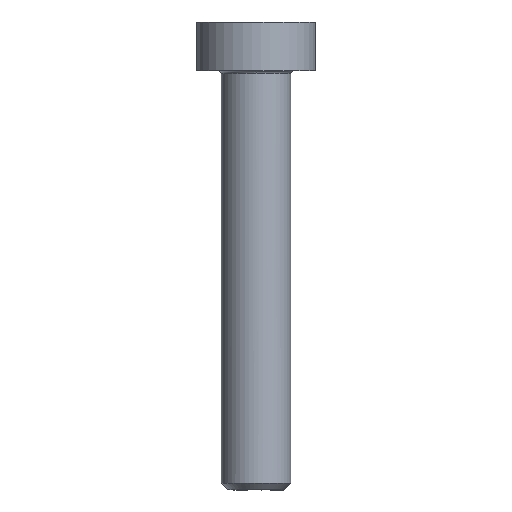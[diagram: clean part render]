
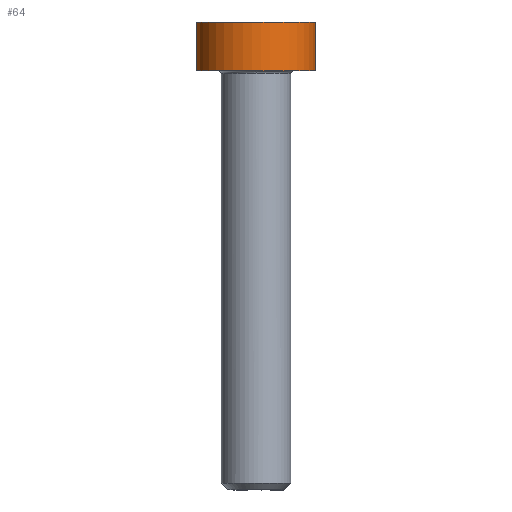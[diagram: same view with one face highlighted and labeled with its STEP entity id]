
A CAD part, left-side view. The second image highlights one B-rep face of the part: STEP entity #64.
In plain terms, the highlighted free-form (B-spline) face has degree [2, 1] with [9, 2] control points.
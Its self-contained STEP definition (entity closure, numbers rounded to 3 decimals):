
#64=ADVANCED_FACE('',(#114),#1560,.T.);
#114=FACE_OUTER_BOUND('',#165,.T.);
#165=EDGE_LOOP('',(#297,#298,#299,#300));
#297=ORIENTED_EDGE('',*,*,#1077,.F.);
#298=ORIENTED_EDGE('',*,*,#1133,.T.);
#299=ORIENTED_EDGE('',*,*,#1079,.F.);
#300=ORIENTED_EDGE('',*,*,#1132,.F.);
#457=(
BOUNDED_CURVE()
B_SPLINE_CURVE(2,(#2371,#2372,#2373,#2374,#2375),.UNSPECIFIED.,.F.,.F.)
B_SPLINE_CURVE_WITH_KNOTS((3,2,3),(-13.352,-6.676,0.),
 .UNSPECIFIED.)
CURVE()
GEOMETRIC_REPRESENTATION_ITEM()
RATIONAL_B_SPLINE_CURVE((1.,0.707,1.,0.707,1.))
REPRESENTATION_ITEM('')
);
#458=(
BOUNDED_CURVE()
B_SPLINE_CURVE(2,(#2376,#2377,#2378,#2379,#2380),.UNSPECIFIED.,.F.,.F.)
B_SPLINE_CURVE_WITH_KNOTS((3,2,3),(-13.352,-6.676,0.),
 .UNSPECIFIED.)
CURVE()
GEOMETRIC_REPRESENTATION_ITEM()
RATIONAL_B_SPLINE_CURVE((1.,0.707,1.,0.707,1.))
REPRESENTATION_ITEM('')
);
#462=(
BOUNDED_CURVE()
B_SPLINE_CURVE(2,(#2394,#2395,#2396,#2397,#2398),.UNSPECIFIED.,.F.,.F.)
B_SPLINE_CURVE_WITH_KNOTS((3,2,3),(-13.352,-6.676,0.),
 .UNSPECIFIED.)
CURVE()
GEOMETRIC_REPRESENTATION_ITEM()
RATIONAL_B_SPLINE_CURVE((1.,0.707,1.,0.707,1.))
REPRESENTATION_ITEM('')
);
#463=(
BOUNDED_CURVE()
B_SPLINE_CURVE(2,(#2405,#2406,#2407,#2408,#2409),.UNSPECIFIED.,.F.,.F.)
B_SPLINE_CURVE_WITH_KNOTS((3,2,3),(-13.352,-6.676,0.),
 .UNSPECIFIED.)
CURVE()
GEOMETRIC_REPRESENTATION_ITEM()
RATIONAL_B_SPLINE_CURVE((1.,0.707,1.,0.707,1.))
REPRESENTATION_ITEM('')
);
#507=PCURVE('',#1551,#735);
#509=PCURVE('',#1551,#737);
#605=PCURVE('',#1534,#833);
#609=PCURVE('',#1560,#837);
#610=PCURVE('',#1560,#838);
#611=PCURVE('',#1560,#839);
#612=PCURVE('',#1560,#840);
#613=PCURVE('',#1535,#841);
#735=DEFINITIONAL_REPRESENTATION('',(#1192),#3200);
#737=DEFINITIONAL_REPRESENTATION('',(#1195),#3200);
#833=DEFINITIONAL_REPRESENTATION('',(#458),#3200);
#837=DEFINITIONAL_REPRESENTATION('',(#1310),#3200);
#838=DEFINITIONAL_REPRESENTATION('',(#1311),#3200);
#839=DEFINITIONAL_REPRESENTATION('',(#1312),#3200);
#840=DEFINITIONAL_REPRESENTATION('',(#1313),#3200);
#841=DEFINITIONAL_REPRESENTATION('',(#463),#3200);
#963=SURFACE_CURVE('',#1191,(#507,#609),.PCURVE_S1.);
#965=SURFACE_CURVE('',#1194,(#509,#611),.PCURVE_S1.);
#1018=SURFACE_CURVE('',#457,(#605,#612),.PCURVE_S1.);
#1019=SURFACE_CURVE('',#462,(#610,#613),.PCURVE_S1.);
#1077=EDGE_CURVE('',#1449,#1450,#963,.T.);
#1079=EDGE_CURVE('',#1451,#1452,#965,.T.);
#1132=EDGE_CURVE('',#1450,#1451,#1018,.T.);
#1133=EDGE_CURVE('',#1449,#1452,#1019,.T.);
#1191=B_SPLINE_CURVE_WITH_KNOTS('',1,(#2011,#2012),.UNSPECIFIED.,.F.,.F.,
(2,2),(-3.5,0.),.UNSPECIFIED.);
#1192=B_SPLINE_CURVE_WITH_KNOTS('',1,(#2013,#2014),.UNSPECIFIED.,.F.,.F.,
(2,2),(-3.5,0.),.UNSPECIFIED.);
#1194=B_SPLINE_CURVE_WITH_KNOTS('',1,(#2022,#2023),.UNSPECIFIED.,.F.,.F.,
(2,2),(-3.5,0.),.UNSPECIFIED.);
#1195=B_SPLINE_CURVE_WITH_KNOTS('',1,(#2024,#2025),.UNSPECIFIED.,.F.,.F.,
(2,2),(-3.5,0.),.UNSPECIFIED.);
#1310=B_SPLINE_CURVE_WITH_KNOTS('',1,(#2392,#2393),.UNSPECIFIED.,.F.,.F.,
(2,2),(-3.5,0.),.UNSPECIFIED.);
#1311=B_SPLINE_CURVE_WITH_KNOTS('',1,(#2399,#2400),.UNSPECIFIED.,.F.,.F.,
(2,2),(-13.352,0.),.UNSPECIFIED.);
#1312=B_SPLINE_CURVE_WITH_KNOTS('',1,(#2401,#2402),.UNSPECIFIED.,.F.,.F.,
(2,2),(-3.5,0.),.UNSPECIFIED.);
#1313=B_SPLINE_CURVE_WITH_KNOTS('',1,(#2403,#2404),.UNSPECIFIED.,.F.,.F.,
(2,2),(-13.352,0.),.UNSPECIFIED.);
#1449=VERTEX_POINT('',#1975);
#1450=VERTEX_POINT('',#1976);
#1451=VERTEX_POINT('',#1977);
#1452=VERTEX_POINT('',#1978);
#1534=PLANE('',#1604);
#1535=PLANE('',#1605);
#1551=(
BOUNDED_SURFACE()
B_SPLINE_SURFACE(2,1,((#1654,#1655),(#1656,#1657),(#1658,#1659),(#1660,#1661),
(#1662,#1663),(#1664,#1665),(#1666,#1667),(#1668,#1669),(#1670,#1671)),
 .UNSPECIFIED.,.T.,.F.,.F.)
B_SPLINE_SURFACE_WITH_KNOTS((3,2,2,2,3),(2,2),(0.,1.571,3.142,
4.712,6.283),(0.,4.202),.UNSPECIFIED.)
GEOMETRIC_REPRESENTATION_ITEM()
RATIONAL_B_SPLINE_SURFACE(((1.,1.),(0.707,0.707),
(1.,1.),(0.707,0.707),(1.,1.),(0.707,
0.707),(1.,1.),(0.707,0.707),(1.,1.)))
REPRESENTATION_ITEM('')
SURFACE()
);
#1560=(
BOUNDED_SURFACE()
B_SPLINE_SURFACE(2,1,((#1956,#1957),(#1958,#1959),(#1960,#1961),(#1962,#1963),
(#1964,#1965),(#1966,#1967),(#1968,#1969),(#1970,#1971),(#1972,#1973)),
 .UNSPECIFIED.,.T.,.F.,.F.)
B_SPLINE_SURFACE_WITH_KNOTS((3,2,2,2,3),(2,2),(0.,1.571,3.142,
4.712,6.283),(0.,4.202),.UNSPECIFIED.)
GEOMETRIC_REPRESENTATION_ITEM()
RATIONAL_B_SPLINE_SURFACE(((1.,1.),(0.707,0.707),
(1.,1.),(0.707,0.707),(1.,1.),(0.707,
0.707),(1.,1.),(0.707,0.707),(1.,1.)))
REPRESENTATION_ITEM('')
SURFACE()
);
#1604=AXIS2_PLACEMENT_3D('',#1955,#1636,$);
#1605=AXIS2_PLACEMENT_3D('',#1974,#1637,$);
#1636=DIRECTION('',(0.,0.,1.));
#1637=DIRECTION('',(0.,0.,-1.));
#1654=CARTESIAN_POINT('',(-507.25,28.,-6.149));
#1655=CARTESIAN_POINT('',(-507.25,28.,-10.351));
#1656=CARTESIAN_POINT('',(-507.25,23.75,-6.149));
#1657=CARTESIAN_POINT('',(-507.25,23.75,-10.351));
#1658=CARTESIAN_POINT('',(-503.,23.75,-6.149));
#1659=CARTESIAN_POINT('',(-503.,23.75,-10.351));
#1660=CARTESIAN_POINT('',(-498.75,23.75,-6.149));
#1661=CARTESIAN_POINT('',(-498.75,23.75,-10.351));
#1662=CARTESIAN_POINT('',(-498.75,28.,-6.149));
#1663=CARTESIAN_POINT('',(-498.75,28.,-10.351));
#1664=CARTESIAN_POINT('',(-498.75,32.25,-6.149));
#1665=CARTESIAN_POINT('',(-498.75,32.25,-10.351));
#1666=CARTESIAN_POINT('',(-503.,32.25,-6.149));
#1667=CARTESIAN_POINT('',(-503.,32.25,-10.351));
#1668=CARTESIAN_POINT('',(-507.25,32.25,-6.149));
#1669=CARTESIAN_POINT('',(-507.25,32.25,-10.351));
#1670=CARTESIAN_POINT('',(-507.25,28.,-6.149));
#1671=CARTESIAN_POINT('',(-507.25,28.,-10.351));
#1955=CARTESIAN_POINT('',(-508.101,33.101,-10.));
#1956=CARTESIAN_POINT('',(-498.75,28.,-6.149));
#1957=CARTESIAN_POINT('',(-498.75,28.,-10.351));
#1958=CARTESIAN_POINT('',(-498.75,32.25,-6.149));
#1959=CARTESIAN_POINT('',(-498.75,32.25,-10.351));
#1960=CARTESIAN_POINT('',(-503.,32.25,-6.149));
#1961=CARTESIAN_POINT('',(-503.,32.25,-10.351));
#1962=CARTESIAN_POINT('',(-507.25,32.25,-6.149));
#1963=CARTESIAN_POINT('',(-507.25,32.25,-10.351));
#1964=CARTESIAN_POINT('',(-507.25,28.,-6.149));
#1965=CARTESIAN_POINT('',(-507.25,28.,-10.351));
#1966=CARTESIAN_POINT('',(-507.25,23.75,-6.149));
#1967=CARTESIAN_POINT('',(-507.25,23.75,-10.351));
#1968=CARTESIAN_POINT('',(-503.,23.75,-6.149));
#1969=CARTESIAN_POINT('',(-503.,23.75,-10.351));
#1970=CARTESIAN_POINT('',(-498.75,23.75,-6.149));
#1971=CARTESIAN_POINT('',(-498.75,23.75,-10.351));
#1972=CARTESIAN_POINT('',(-498.75,28.,-6.149));
#1973=CARTESIAN_POINT('',(-498.75,28.,-10.351));
#1974=CARTESIAN_POINT('',(-508.101,22.899,-6.5));
#1975=CARTESIAN_POINT('',(-503.,32.25,-6.5));
#1976=CARTESIAN_POINT('',(-503.,32.25,-10.));
#1977=CARTESIAN_POINT('',(-503.,23.75,-10.));
#1978=CARTESIAN_POINT('',(-503.,23.75,-6.5));
#2011=CARTESIAN_POINT('',(-503.,32.25,-6.5));
#2012=CARTESIAN_POINT('',(-503.,32.25,-10.));
#2013=CARTESIAN_POINT('',(4.712,0.351));
#2014=CARTESIAN_POINT('',(4.712,3.851));
#2022=CARTESIAN_POINT('',(-503.,23.75,-10.));
#2023=CARTESIAN_POINT('',(-503.,23.75,-6.5));
#2024=CARTESIAN_POINT('',(1.571,3.851));
#2025=CARTESIAN_POINT('',(1.571,0.351));
#2371=CARTESIAN_POINT('',(-503.,32.25,-10.));
#2372=CARTESIAN_POINT('',(-507.25,32.25,-10.));
#2373=CARTESIAN_POINT('',(-507.25,28.,-10.));
#2374=CARTESIAN_POINT('',(-507.25,23.75,-10.));
#2375=CARTESIAN_POINT('',(-503.,23.75,-10.));
#2376=CARTESIAN_POINT('',(-0.775,0.));
#2377=CARTESIAN_POINT('',(-0.775,-4.25));
#2378=CARTESIAN_POINT('',(3.475,-4.25));
#2379=CARTESIAN_POINT('',(7.725,-4.25));
#2380=CARTESIAN_POINT('',(7.725,0.));
#2392=CARTESIAN_POINT('',(1.571,0.351));
#2393=CARTESIAN_POINT('',(1.571,3.851));
#2394=CARTESIAN_POINT('',(-503.,32.25,-6.5));
#2395=CARTESIAN_POINT('',(-507.25,32.25,-6.5));
#2396=CARTESIAN_POINT('',(-507.25,28.,-6.5));
#2397=CARTESIAN_POINT('',(-507.25,23.75,-6.5));
#2398=CARTESIAN_POINT('',(-503.,23.75,-6.5));
#2399=CARTESIAN_POINT('',(1.571,0.351));
#2400=CARTESIAN_POINT('',(4.712,0.351));
#2401=CARTESIAN_POINT('',(4.712,3.851));
#2402=CARTESIAN_POINT('',(4.712,0.351));
#2403=CARTESIAN_POINT('',(1.571,3.851));
#2404=CARTESIAN_POINT('',(4.712,3.851));
#2405=CARTESIAN_POINT('',(2.125,0.));
#2406=CARTESIAN_POINT('',(2.125,-4.25));
#2407=CARTESIAN_POINT('',(-2.125,-4.25));
#2408=CARTESIAN_POINT('',(-6.375,-4.25));
#2409=CARTESIAN_POINT('',(-6.375,0.));
#3200=(
GEOMETRIC_REPRESENTATION_CONTEXT(2)
PARAMETRIC_REPRESENTATION_CONTEXT()
REPRESENTATION_CONTEXT('pspace','')
);
